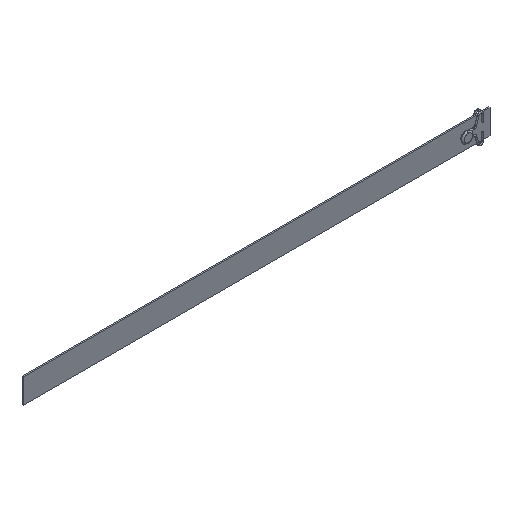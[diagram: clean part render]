
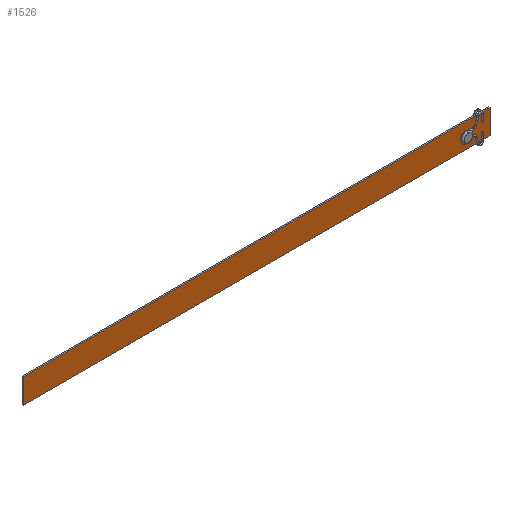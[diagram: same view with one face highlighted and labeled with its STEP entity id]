
A CAD part, isometric view. The second image highlights one B-rep face of the part: STEP entity #1526.
In plain terms, the highlighted planar face has unit normal (0, -1, 0).
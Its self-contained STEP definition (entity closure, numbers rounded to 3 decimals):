
#42 = CARTESIAN_POINT ( 'NONE',  ( -16., -0.5, -1.95 ) ) ;
#158 = EDGE_CURVE ( 'NONE', #796, #516, #1057, .T. ) ;
#159 = CARTESIAN_POINT ( 'NONE',  ( -300., -0.5, -7.9 ) ) ;
#331 = VECTOR ( 'NONE', #1983, 1000. ) ;
#413 = EDGE_CURVE ( 'NONE', #1826, #1052, #1699, .T. ) ;
#446 = PLANE ( 'NONE',  #1993 ) ;
#468 = CARTESIAN_POINT ( 'NONE',  ( 0., -0.5, 7.9 ) ) ;
#516 = VERTEX_POINT ( 'NONE', #1314 ) ;
#557 = FACE_OUTER_BOUND ( 'NONE', #1654, .T. ) ;
#608 = CARTESIAN_POINT ( 'NONE',  ( 0., -0.5, -7.9 ) ) ;
#699 = CARTESIAN_POINT ( 'NONE',  ( 0., -0.5, -7.9 ) ) ;
#786 = EDGE_CURVE ( 'NONE', #516, #1826, #1566, .T. ) ;
#790 = DIRECTION ( 'NONE',  ( 0., 0., 1. ) ) ;
#796 = VERTEX_POINT ( 'NONE', #699 ) ;
#798 = DIRECTION ( 'NONE',  ( 0., 1., 0. ) ) ;
#816 = VECTOR ( 'NONE', #1609, 1000. ) ;
#822 = CARTESIAN_POINT ( 'NONE',  ( -16., -0.5, 0. ) ) ;
#888 = DIRECTION ( 'NONE',  ( 0., 0., 1. ) ) ;
#904 = DIRECTION ( 'NONE',  ( 0., 1., 0. ) ) ;
#908 = CARTESIAN_POINT ( 'NONE',  ( -16., -0.5, 0. ) ) ;
#950 = CARTESIAN_POINT ( 'NONE',  ( -300., -0.5, 7.9 ) ) ;
#956 = ORIENTED_EDGE ( 'NONE', *, *, #786, .F. ) ;
#1052 = VERTEX_POINT ( 'NONE', #1054 ) ;
#1054 = CARTESIAN_POINT ( 'NONE',  ( 0., -0.5, 7.9 ) ) ;
#1055 = EDGE_CURVE ( 'NONE', #1377, #1692, #1822, .T. ) ;
#1057 = LINE ( 'NONE', #608, #1519 ) ;
#1157 = EDGE_CURVE ( 'NONE', #1052, #796, #1719, .T. ) ;
#1162 = ORIENTED_EDGE ( 'NONE', *, *, #1989, .T. ) ;
#1178 = ORIENTED_EDGE ( 'NONE', *, *, #413, .F. ) ;
#1204 = CARTESIAN_POINT ( 'NONE',  ( -16., -0.5, 1.95 ) ) ;
#1314 = CARTESIAN_POINT ( 'NONE',  ( -300., -0.5, -7.9 ) ) ;
#1377 = VERTEX_POINT ( 'NONE', #1204 ) ;
#1431 = CARTESIAN_POINT ( 'NONE',  ( 0., -0.5, 7.9 ) ) ;
#1462 = VECTOR ( 'NONE', #2136, 1000. ) ;
#1465 = AXIS2_PLACEMENT_3D ( 'NONE', #822, #798, #790 ) ;
#1478 = FACE_BOUND ( 'NONE', #1509, .T. ) ;
#1509 = EDGE_LOOP ( 'NONE', ( #1863, #1162 ) ) ;
#1519 = VECTOR ( 'NONE', #1791, 1000. ) ;
#1526 = ADVANCED_FACE ( 'NONE', ( #1478, #557 ), #446, .F. ) ;
#1566 = LINE ( 'NONE', #159, #1462 ) ;
#1609 = DIRECTION ( 'NONE',  ( 0., 0., -1. ) ) ;
#1621 = AXIS2_PLACEMENT_3D ( 'NONE', #908, #904, #888 ) ;
#1654 = EDGE_LOOP ( 'NONE', ( #1749, #1702, #1178, #956 ) ) ;
#1692 = VERTEX_POINT ( 'NONE', #42 ) ;
#1699 = LINE ( 'NONE', #1431, #331 ) ;
#1702 = ORIENTED_EDGE ( 'NONE', *, *, #1157, .F. ) ;
#1719 = LINE ( 'NONE', #468, #816 ) ;
#1749 = ORIENTED_EDGE ( 'NONE', *, *, #158, .F. ) ;
#1791 = DIRECTION ( 'NONE',  ( -1., 0., 0. ) ) ;
#1822 = CIRCLE ( 'NONE', #1621, 1.95 ) ;
#1826 = VERTEX_POINT ( 'NONE', #950 ) ;
#1863 = ORIENTED_EDGE ( 'NONE', *, *, #1055, .T. ) ;
#1983 = DIRECTION ( 'NONE',  ( 1., 0., 0. ) ) ;
#1989 = EDGE_CURVE ( 'NONE', #1692, #1377, #2076, .T. ) ;
#1993 = AXIS2_PLACEMENT_3D ( 'NONE', #2173, #2004, #1997 ) ;
#1997 = DIRECTION ( 'NONE',  ( 0., 0., 1. ) ) ;
#2004 = DIRECTION ( 'NONE',  ( 0., 1., 0. ) ) ;
#2076 = CIRCLE ( 'NONE', #1465, 1.95 ) ;
#2136 = DIRECTION ( 'NONE',  ( 0., 0., 1. ) ) ;
#2173 = CARTESIAN_POINT ( 'NONE',  ( 0., -0.5, 0. ) ) ;
